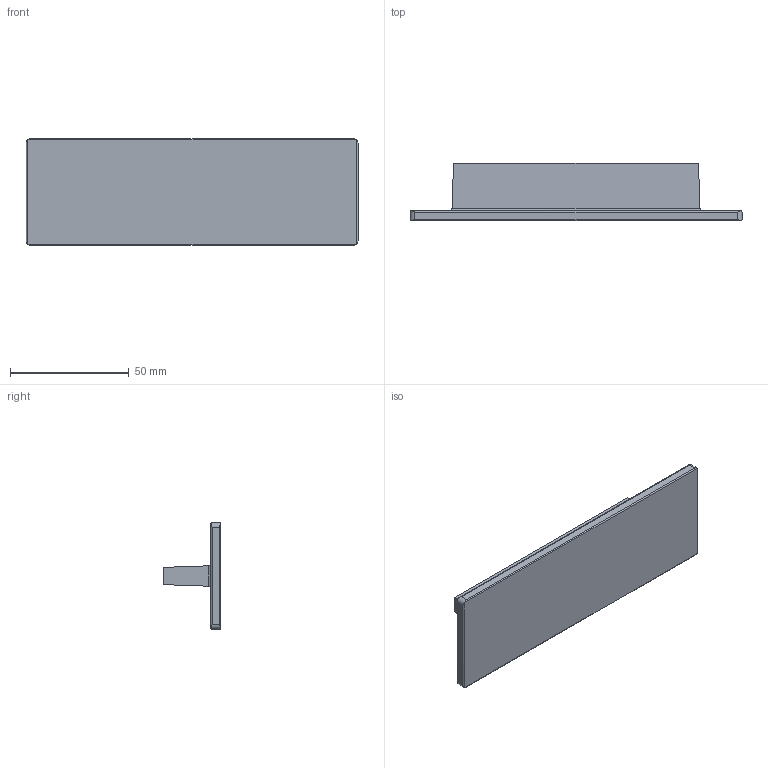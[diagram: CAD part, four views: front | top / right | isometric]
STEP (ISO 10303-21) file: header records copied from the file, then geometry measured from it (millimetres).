
FILE_DESCRIPTION( ( '' ), '1' );
FILE_NAME( 'D:/1.AUTOCAD EXPORT/Group 10/sheet_10_1/9113350.stp', '2013-10-16T08:43:36', ( '' ), ( '' ), ' ', ' ', ' ' );
FILE_SCHEMA( ( 'automotive_design' ) );
Length unit declared in the file: millimetre
Products named in the file (1): 1
Bounding box: 140 x 24 x 45 mm (x, y, z)
Volume: 38034.5 mm3; surface area: 18920.5 mm2
Topology: 1 solids, 1 shells, 43 faces, 104 edges, 68 vertices
Faces by surface type: plane 23, cylinder 20
Entity records: 2554 total; most frequent: CARTESIAN_POINT 328, STYLED_ITEM 216, PRESENTATION_STYLE_ASSIGNMENT 216, COLOUR_RGB 216, ORIENTED_EDGE 208, DIRECTION 196, EDGE_CURVE 104, CURVE_STYLE 104
